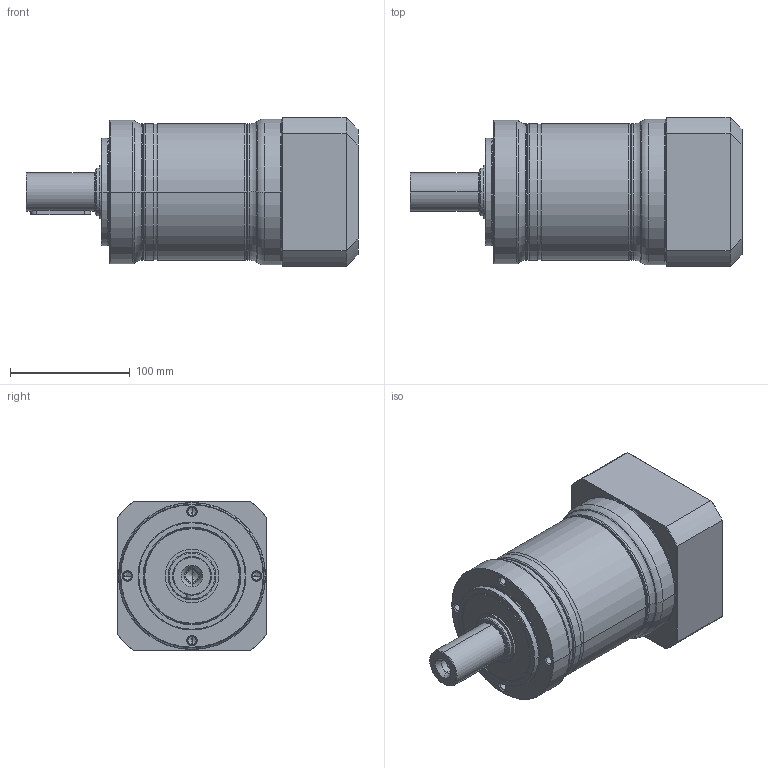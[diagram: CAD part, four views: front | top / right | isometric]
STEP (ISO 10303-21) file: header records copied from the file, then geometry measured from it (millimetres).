
FILE_DESCRIPTION((''),'2;1');
FILE_NAME('PE2-120_2ST_32-P0411700101_ASM','2017-06-03T',('d01943'),(''),'PRO/ENGINEER BY PARAMETRIC TECHNOLOGY CORPORATION, 2008410','PRO/ENGINEER BY PARAMETRIC TECHNOLOGY CORPORATION, 2008410','');
FILE_SCHEMA(('CONFIG_CONTROL_DESIGN'));
Length unit declared in the file: millimetre
Products named in the file (9): P1323410001; P0251400001; P1324400301; P0350401001; P0941403001; P0503700010; P0411700101; P1702600001; PE2-120_2ST_32-P0411700101_ASM
Assembly tree (8 placements, depth 2):
  PE2-120_2ST_32-P0411700101_ASM
    P1323410001
    P0251400001
    P1324400301
    P0350401001
    P0941403001
    P0503700010
    P0411700101
    P1702600001
Bounding box: 277.5 x 125 x 125 mm (x, y, z)
Volume: 1743068.3 mm3; surface area: 284192.6 mm2
Topology: 8 solids, 8 shells, 480 faces, 1052 edges, 602 vertices
Faces by surface type: cone 142, cylinder 142, torus 102, plane 78, bspline 16
Entity records: 17844 total; most frequent: CARTESIAN_POINT 7078, DIRECTION 2459, ORIENTED_EDGE 2040, AXIS2_PLACEMENT_3D 1057, EDGE_CURVE 1020, VERTEX_POINT 602, CIRCLE 576, EDGE_LOOP 542
